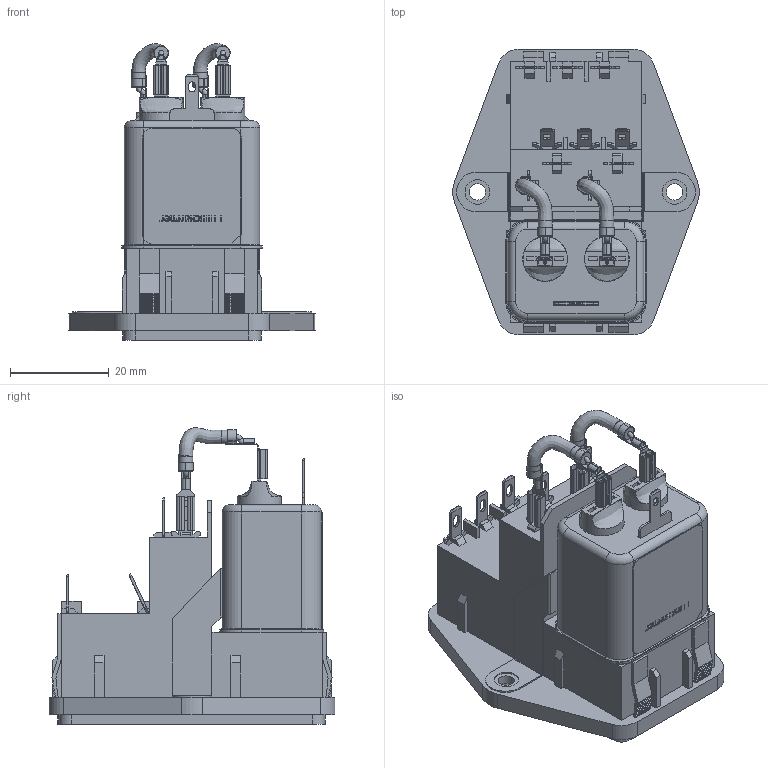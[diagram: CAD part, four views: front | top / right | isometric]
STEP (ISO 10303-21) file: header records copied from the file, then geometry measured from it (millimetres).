
FILE_DESCRIPTION((''),'2;1');
FILE_NAME('D:\_ PRODUCT\New project\3D request\FN378\FN378.stp','2012-10-18T10:23:56',('sayan.penton'),(''),'Autodesk Inventor 2010','Autodesk Inventor 2010','');
FILE_SCHEMA(('AUTOMOTIVE_DESIGN { 1 0 10303 214 1 1 1 1 }'));
Length unit declared in the file: millimetre
Products named in the file (1): Part2
Bounding box: 49.97 x 58 x 60.23 mm (x, y, z)
Volume: 29639.5 mm3; surface area: 25502.7 mm2
Topology: 3 solids, 5 shells, 1428 faces, 4098 edges, 2664 vertices
Faces by surface type: plane 922, cylinder 279, bspline 211, torus 16
Full cylindrical faces by diameter (mm): 1 x4, 1.2 x2, 2.8 x4, 5 x2, 6 x2, 9 x1, 9.1 x2, 12.5 x1
Entity records: 56466 total; most frequent: CARTESIAN_POINT 18064, ORIENTED_EDGE 8092, DIRECTION 7001, EDGE_CURVE 4048, VECTOR 3199, LINE 3199, VERTEX_POINT 2638, AXIS2_PLACEMENT_3D 1901
